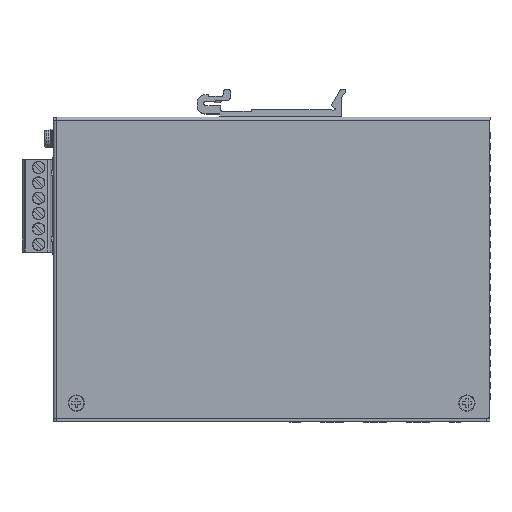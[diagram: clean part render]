
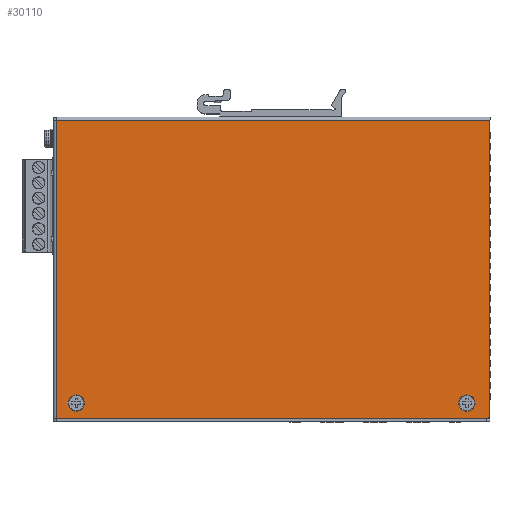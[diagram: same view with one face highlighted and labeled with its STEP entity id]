
A CAD part, top view. The second image highlights one B-rep face of the part: STEP entity #30110.
In plain terms, the highlighted planar face has unit normal (0, 0, 1).
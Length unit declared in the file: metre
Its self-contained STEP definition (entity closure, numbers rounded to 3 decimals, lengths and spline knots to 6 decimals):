
#1723=LINE('',#49392,#4460);
#1724=LINE('',#49395,#4461);
#1725=LINE('',#49397,#4462);
#1726=LINE('',#49399,#4463);
#4460=VECTOR('',#36637,1.);
#4461=VECTOR('',#36638,1.);
#4462=VECTOR('',#36639,1.);
#4463=VECTOR('',#36640,1.);
#8698=ORIENTED_EDGE('',*,*,#15777,.F.);
#8699=ORIENTED_EDGE('',*,*,#15778,.T.);
#8700=ORIENTED_EDGE('',*,*,#15779,.T.);
#8701=ORIENTED_EDGE('',*,*,#15780,.F.);
#8702=ORIENTED_EDGE('',*,*,#15781,.F.);
#8703=ORIENTED_EDGE('',*,*,#15782,.F.);
#8704=ORIENTED_EDGE('',*,*,#15770,.F.);
#15770=EDGE_CURVE('',#19902,#19902,#23049,.T.);
#15777=EDGE_CURVE('',#19909,#19910,#1723,.T.);
#15778=EDGE_CURVE('',#19909,#19911,#1724,.T.);
#15779=EDGE_CURVE('',#19911,#19912,#1725,.T.);
#15780=EDGE_CURVE('',#19913,#19912,#1726,.T.);
#15781=EDGE_CURVE('',#19910,#19913,#23052,.T.);
#15782=EDGE_CURVE('',#19914,#19914,#23053,.T.);
#19902=VERTEX_POINT('',#49377);
#19909=VERTEX_POINT('',#49393);
#19910=VERTEX_POINT('',#49394);
#19911=VERTEX_POINT('',#49396);
#19912=VERTEX_POINT('',#49398);
#19913=VERTEX_POINT('',#49400);
#19914=VERTEX_POINT('',#49403);
#23049=CIRCLE('',#32482,0.00265);
#23052=CIRCLE('',#32487,0.001);
#23053=CIRCLE('',#32488,0.00265);
#24523=EDGE_LOOP('',(#8698,#8699,#8700,#8701,#8702));
#24524=EDGE_LOOP('',(#8703));
#24525=EDGE_LOOP('',(#8704));
#26860=FACE_BOUND('',#24523,.T.);
#26861=FACE_BOUND('',#24524,.T.);
#26862=FACE_BOUND('',#24525,.T.);
#28952=PLANE('',#32486);
#30110=ADVANCED_FACE('',(#26860,#26861,#26862),#28952,.T.);
#32482=AXIS2_PLACEMENT_3D('',#49376,#36623,#36624);
#32486=AXIS2_PLACEMENT_3D('',#49391,#36635,#36636);
#32487=AXIS2_PLACEMENT_3D('',#49401,#36641,#36642);
#32488=AXIS2_PLACEMENT_3D('',#49402,#36643,#36644);
#36623=DIRECTION('',(0.,0.,1.));
#36624=DIRECTION('',(0.,-1.,0.));
#36635=DIRECTION('',(0.,0.,1.));
#36636=DIRECTION('',(1.,0.,0.));
#36637=DIRECTION('',(0.,-1.,0.));
#36638=DIRECTION('',(-1.,0.,0.));
#36639=DIRECTION('',(0.,-1.,0.));
#36640=DIRECTION('',(-1.,0.,0.));
#36641=DIRECTION('',(0.,0.,-1.));
#36642=DIRECTION('',(1.,0.,0.));
#36643=DIRECTION('',(0.,0.,1.));
#36644=DIRECTION('',(0.,-1.,0.));
#49376=CARTESIAN_POINT('',(-0.064,-0.044,0.001));
#49377=CARTESIAN_POINT('',(-0.064,-0.04665,0.001));
#49391=CARTESIAN_POINT('',(0.,0.,0.001));
#49392=CARTESIAN_POINT('',(0.0705,0.048,0.001));
#49393=CARTESIAN_POINT('',(0.0705,0.048,0.001));
#49394=CARTESIAN_POINT('',(0.0705,-0.048,0.001));
#49395=CARTESIAN_POINT('',(0.0705,0.048,0.001));
#49396=CARTESIAN_POINT('',(-0.0705,0.048,0.001));
#49397=CARTESIAN_POINT('',(-0.0705,0.048,0.001));
#49398=CARTESIAN_POINT('',(-0.0705,-0.049,0.001));
#49399=CARTESIAN_POINT('',(0.0695,-0.049,0.001));
#49400=CARTESIAN_POINT('',(0.0695,-0.049,0.001));
#49401=CARTESIAN_POINT('',(0.0695,-0.048,0.001));
#49402=CARTESIAN_POINT('',(0.063,-0.044,0.001));
#49403=CARTESIAN_POINT('',(0.063,-0.04665,0.001));
